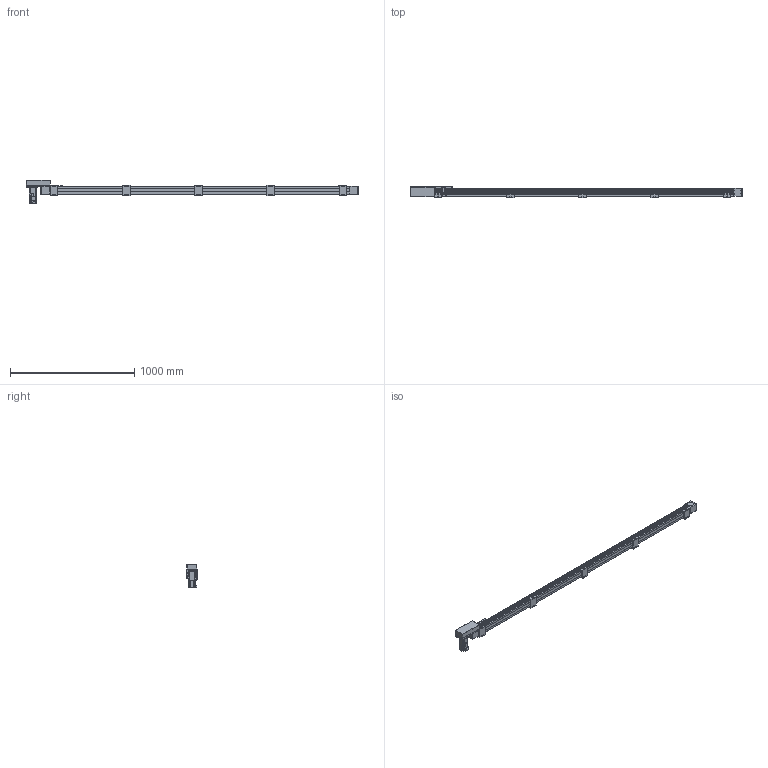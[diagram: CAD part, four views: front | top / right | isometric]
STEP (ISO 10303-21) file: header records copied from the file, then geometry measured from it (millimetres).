
FILE_DESCRIPTION(/* description */ ('STEP AP214'),/* implementation_level */ '2;1');
FILE_NAME(/* name */ 'SK60-P13-S2250-R-T40-C1-N(0)',/* time_stamp */ '2023-04-06T04:28:22+02:00',/* author */ ('License CC BY-ND 4.0'),/* organization */ ('CADENAS'),/* preprocessor_version */ 'ST-DEVELOPER v19.3',/* originating_system */ 'PARTsolutions',/* authorisation */ ' ');
FILE_SCHEMA (('AUTOMOTIVE_DESIGN {1 0 10303 214 3 1 1}'));
Length unit declared in the file: millimetre
Products named in the file (10): SK60-P13-S2250-R-T40-C1-N(0); PSC140-sensor; SK60-S450_seat; SK60-S450-BL-C1_slider; SK60_body3; SK60_body6; SK60-BL_body2; T40-p1; SK60-R_fb; SK60-S2250-R-C1_body
Assembly tree (19 placements, depth 2):
  SK60-P13-S2250-R-T40-C1-N(0)
    PSC140-sensor  x3
    SK60-S450_seat  x5
    SK60-S450-BL-C1_slider
    SK60_body3  x3
    SK60_body6  x2
    SK60-BL_body2  x2
    T40-p1
    SK60-R_fb
    SK60-S2250-R-C1_body
Bounding box: 2670.5 x 90 x 189.7 mm (x, y, z)
Volume: 9879059.1 mm3; surface area: 1173624.3 mm2
Topology: 19 solids, 19 shells, 942 faces, 2342 edges, 1541 vertices
Faces by surface type: plane 596, cylinder 310, cone 34, torus 2
Full cylindrical faces by diameter (mm): 2.8 x3, 3.3 x4, 4 x2, 4.5 x30, 4.6 x3, 4.917 x28, 5 x6, 5.478 x4, 5.5 x31, 6.5 x10, 7 x2, 8 x4, 8.5 x4, 9.988 x4, 10 x20, 14 x1, 47 x3, 50 x2
Entity records: 18679 total; most frequent: DIRECTION 3190, CARTESIAN_POINT 3153, ORIENTED_EDGE 2940, EDGE_CURVE 1470, AXIS2_PLACEMENT_3D 1071, LINE 1048, VECTOR 1048, VERTEX_POINT 1034
